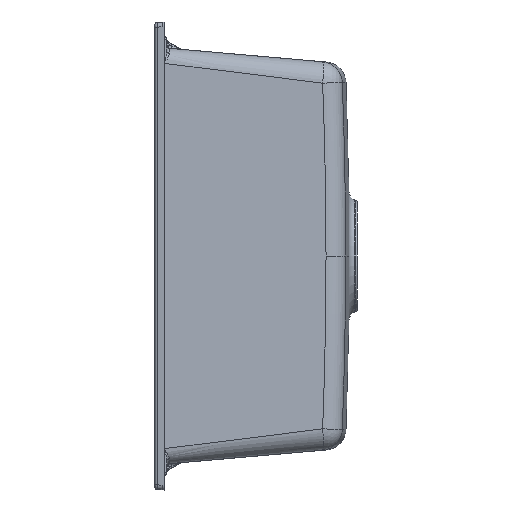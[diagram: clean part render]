
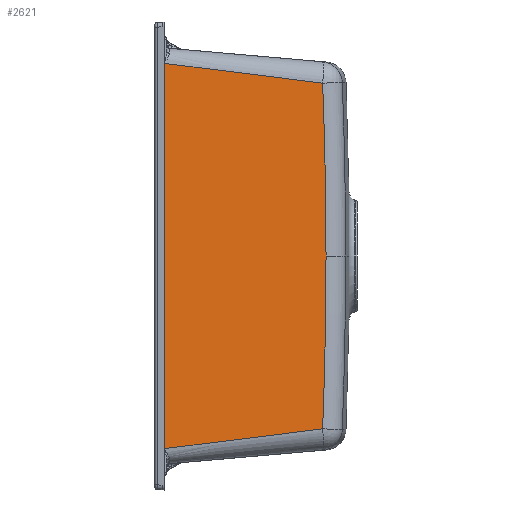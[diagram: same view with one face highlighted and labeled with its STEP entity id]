
A CAD part, left-side view. The second image highlights one B-rep face of the part: STEP entity #2621.
In plain terms, the highlighted planar face has unit normal (-0.996, -0.087, 0).
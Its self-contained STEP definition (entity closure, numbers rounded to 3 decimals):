
#146 = CARTESIAN_POINT ( 'NONE',  ( -555.08, -0.869, -231.451 ) ) ;
#249 = DIRECTION ( 'NONE',  ( 0.996, 0.087, 0. ) ) ;
#258 = VECTOR ( 'NONE', #13912, 1000. ) ;
#515 = DIRECTION ( 'NONE',  ( 0.996, 0.087, 0. ) ) ;
#796 = CARTESIAN_POINT ( 'NONE',  ( -555.08, -0.869, -205.785 ) ) ;
#1228 = CARTESIAN_POINT ( 'NONE',  ( -540.328, -169.483, 184.655 ) ) ;
#2621 = ADVANCED_FACE ( 'NONE', ( #9592 ), #8273, .T. ) ;
#2818 = CARTESIAN_POINT ( 'NONE',  ( -545.261, -113.095, -189.589 ) ) ;
#2890 = EDGE_CURVE ( 'NONE', #13247, #13036, #5965, .T. ) ;
#3122 = CARTESIAN_POINT ( 'NONE',  ( -555.08, -0.869, 205.785 ) ) ;
#3649 = EDGE_LOOP ( 'NONE', ( #20185, #7587, #17353, #7022, #13518 ) ) ;
#3753 = DIRECTION ( 'NONE',  ( 0.087, -0.996, 0. ) ) ;
#4912 = AXIS2_PLACEMENT_3D ( 'NONE', #15234, #17512, #3753 ) ;
#5709 = CARTESIAN_POINT ( 'NONE',  ( -550.171, -56.975, 197.599 ) ) ;
#5763 = CARTESIAN_POINT ( 'NONE',  ( -540.328, -169.483, -184.655 ) ) ;
#5965 = CIRCLE ( 'NONE', #24903, 4745.941 ) ;
#6318 = LINE ( 'NONE', #146, #258 ) ;
#7022 = ORIENTED_EDGE ( 'NONE', *, *, #8203, .F. ) ;
#7441 = CARTESIAN_POINT ( 'NONE',  ( -555.08, -0.869, -205.785 ) ) ;
#7587 = ORIENTED_EDGE ( 'NONE', *, *, #24198, .T. ) ;
#8203 = EDGE_CURVE ( 'NONE', #13036, #13907, #18764, .T. ) ;
#8273 = PLANE ( 'NONE',  #4912 ) ;
#9592 = FACE_OUTER_BOUND ( 'NONE', #3649, .T. ) ;
#11323 = B_SPLINE_CURVE_WITH_KNOTS ( 'NONE', 3,
 ( #14983, #5709, #24066, #1228 ),
 .UNSPECIFIED., .F., .F.,
 ( 4, 4 ),
 ( -0.096, 0.074 ),
 .UNSPECIFIED. ) ;
#12758 = EDGE_CURVE ( 'NONE', #21112, #13247, #11323, .T. ) ;
#13036 = VERTEX_POINT ( 'NONE', #14481 ) ;
#13247 = VERTEX_POINT ( 'NONE', #27474 ) ;
#13518 = ORIENTED_EDGE ( 'NONE', *, *, #2890, .F. ) ;
#13834 = VERTEX_POINT ( 'NONE', #796 ) ;
#13907 = VERTEX_POINT ( 'NONE', #5763 ) ;
#13912 = DIRECTION ( 'NONE',  ( 0., 0., -1. ) ) ;
#14017 = CARTESIAN_POINT ( 'NONE',  ( -953.651, 4554.818, 0. ) ) ;
#14284 = CARTESIAN_POINT ( 'NONE',  ( -953.651, 4554.818, 0. ) ) ;
#14481 = CARTESIAN_POINT ( 'NONE',  ( -540.015, -173.063, 0. ) ) ;
#14983 = CARTESIAN_POINT ( 'NONE',  ( -555.08, -0.869, 205.785 ) ) ;
#15234 = CARTESIAN_POINT ( 'NONE',  ( -555.97, 9.303, -215.24 ) ) ;
#16308 = DIRECTION ( 'NONE',  ( 0.087, -0.996, 0. ) ) ;
#16564 = DIRECTION ( 'NONE',  ( 0.087, -0.996, 0. ) ) ;
#17353 = ORIENTED_EDGE ( 'NONE', *, *, #19546, .F. ) ;
#17512 = DIRECTION ( 'NONE',  ( -0.996, -0.087, 0. ) ) ;
#18742 = AXIS2_PLACEMENT_3D ( 'NONE', #14284, #515, #16564 ) ;
#18764 = CIRCLE ( 'NONE', #18742, 4745.941 ) ;
#18878 = CARTESIAN_POINT ( 'NONE',  ( -540.328, -169.483, -184.655 ) ) ;
#19546 = EDGE_CURVE ( 'NONE', #13907, #13834, #26154, .T. ) ;
#20185 = ORIENTED_EDGE ( 'NONE', *, *, #12758, .F. ) ;
#21112 = VERTEX_POINT ( 'NONE', #3122 ) ;
#21189 = CARTESIAN_POINT ( 'NONE',  ( -550.171, -56.975, -197.599 ) ) ;
#24066 = CARTESIAN_POINT ( 'NONE',  ( -545.261, -113.095, 189.589 ) ) ;
#24198 = EDGE_CURVE ( 'NONE', #21112, #13834, #6318, .T. ) ;
#24903 = AXIS2_PLACEMENT_3D ( 'NONE', #14017, #249, #16308 ) ;
#26154 = B_SPLINE_CURVE_WITH_KNOTS ( 'NONE', 3,
 ( #18878, #2818, #21189, #7441 ),
 .UNSPECIFIED., .F., .F.,
 ( 4, 4 ),
 ( -0.181, -0.011 ),
 .UNSPECIFIED. ) ;
#27474 = CARTESIAN_POINT ( 'NONE',  ( -540.328, -169.483, 184.655 ) ) ;
